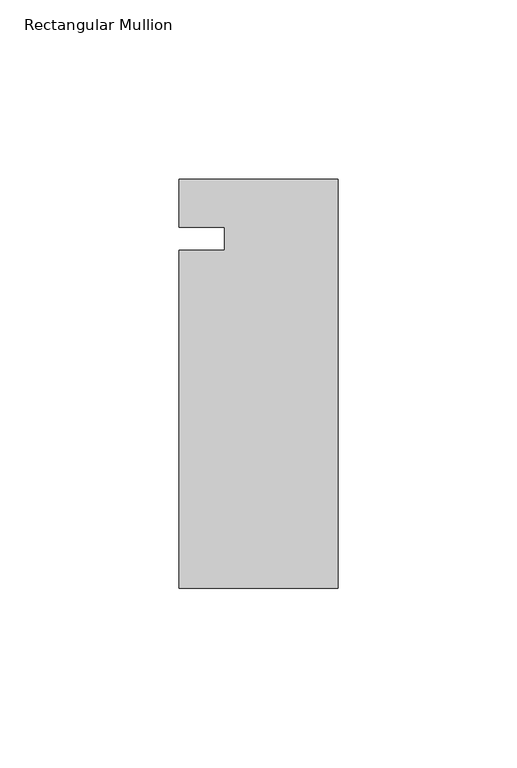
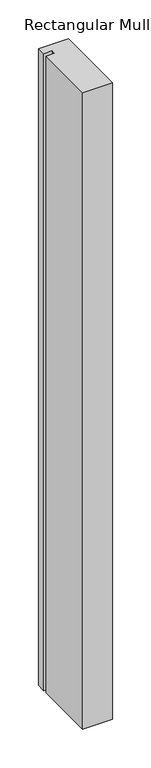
"""IFC4 building model written with IfcOpenShell, lengths in millimetres: member geometry, Rectangular Mullion : Kawneer-TRIFAB_VG_450_BACK_SB_Head."""

from ifc_helpers import new_model, si_unit, frame, origin, place, context, project, spatial, polyline, outline, extrude, source, transform, mapped, element, save


def rectangular_mullion_042afdd0(model_context):
    return source(origin(), model_context, "Body", "SweptSolid", [
        extrude(outline(polyline([(-44.45, 16.66875), (0.0, 16.66875), (0.0, -97.63125), (-44.45, -97.63125), (-44.45, -3.175), (-31.7482296, -3.175), (-31.7482296, 3.175), (-44.45, 3.175), (-44.45, 16.66875)])), frame((0.0, 0.0, -1004.1094133), z_axis=(0.0, 0.0, 1.0), x_axis=(1.0, 0.0, 0.0)), (0.0, 0.0, 1.0), 1004.1094133),
    ])


if __name__ == "__main__":
    model = new_model("IFC4")
    model_context = context("Model", 3, world=origin())
    ifc_project = project(units=[si_unit("LENGTHUNIT", "METRE", prefix="MILLI")], contexts=[model_context])
    site = spatial("IfcSite", under=ifc_project)
    building = spatial("IfcBuilding", under=site)
    placement = place(None, origin())
    rectangular_mullion_shape = rectangular_mullion_042afdd0(model_context)
    element("IfcMember", 1, ObjectType="Rectangular Mullion : Kawneer-TRIFAB_VG_450_BACK_SB_Head", at=placement, inside=building, context=model_context, shape_type="MappedRepresentation", body=[
        mapped(rectangular_mullion_shape, transform((0.0, 0.0, 0.0), x_axis=(1.0, 0.0, 0.0), y_axis=(0.0, 1.0, 0.0), z_axis=(0.0, 0.0, 1.0))),
    ])
    save(model, "model.ifc")
